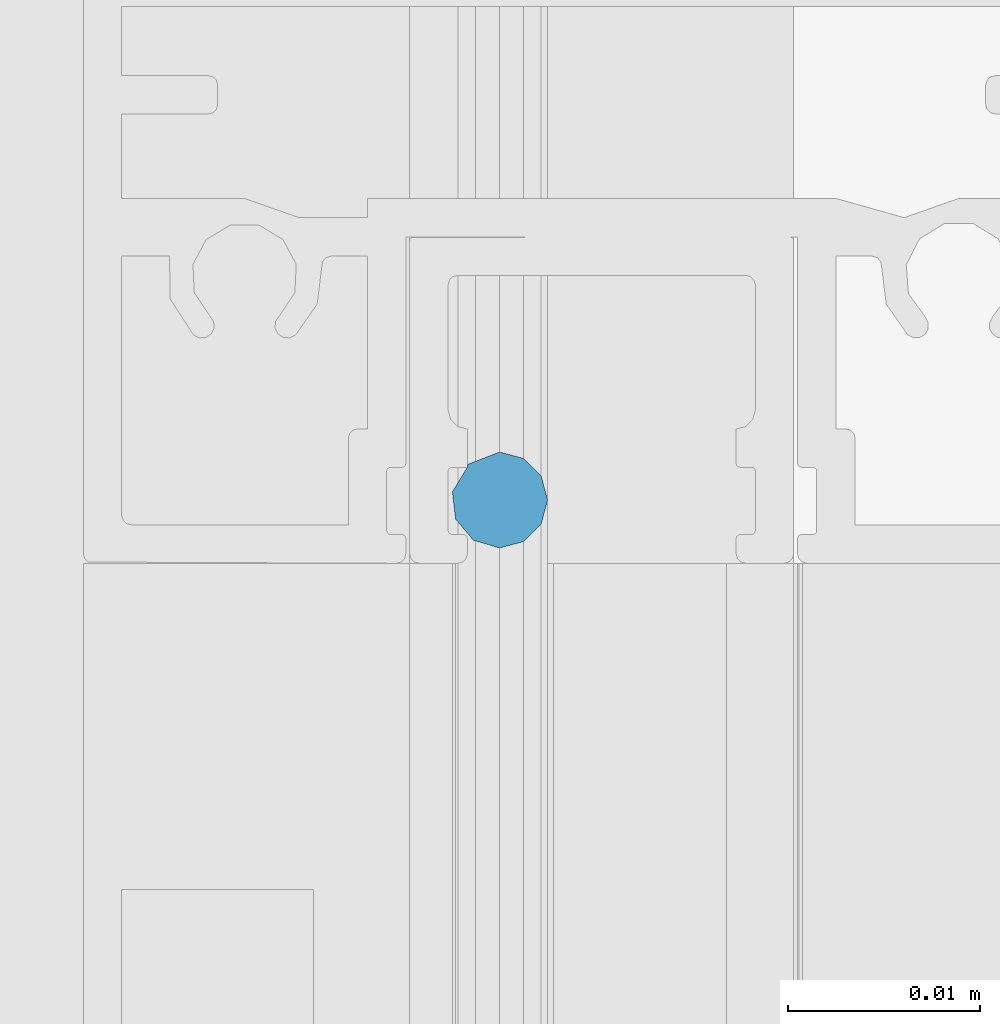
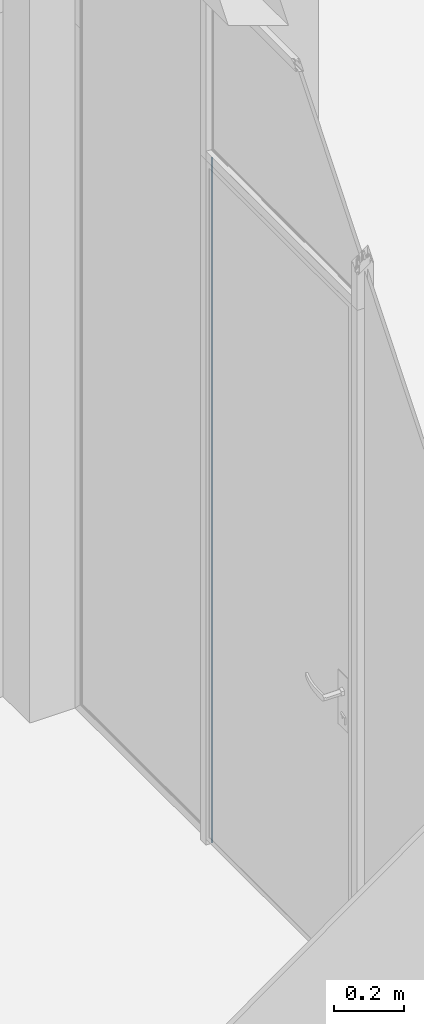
# One storey, part 88 of 387: 1 building element part, 2 elements without a shape of their own.
"""IFC2X3 building model written with IfcOpenShell, lengths in millimetres."""

from ifc_helpers import new_model, entity, si_unit, converted_unit, derived_unit, money_unit, direction, frame, origin_with_axes, place, context, subcontext, project, spatial, faceted_brep, source, transform, mapped, material, type_object, element, aggregate, save


model = new_model("IFC2X3")

# Units and contexts
model_context = context("Model", 3, precision=0.01, world=origin_with_axes(), true_north=direction((0.0, 1.0)))
body_context = subcontext(model_context, "Body", "Model", "MODEL_VIEW")
ifc_project = project(units=[si_unit("LENGTHUNIT", "METRE", prefix="MILLI"), si_unit("AREAUNIT", "SQUARE_METRE"), si_unit("VOLUMEUNIT", "CUBIC_METRE"), converted_unit("PLANEANGLEUNIT", "DEGREE", entity("IfcPlaneAngleMeasure", 0.0174532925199), si_unit("PLANEANGLEUNIT", "RADIAN"), dimensions=[0, 0, 0, 0, 0, 0, 0]), si_unit("SOLIDANGLEUNIT", "STERADIAN"), money_unit("EUR"), converted_unit("TIMEUNIT", "Year", entity("IfcTimeMeasure", 31556926.0), si_unit("TIMEUNIT", "SECOND"), dimensions=[0, 0, 1, 0, 0, 0, 0]), si_unit("MASSUNIT", "GRAM", prefix="KILO"), si_unit("THERMODYNAMICTEMPERATUREUNIT", "DEGREE_CELSIUS"), si_unit("LUMINOUSINTENSITYUNIT", "LUMEN"), si_unit("ENERGYUNIT", "JOULE", prefix="MEGA"), derived_unit("THERMALCONDUCTANCEUNIT", [(si_unit("POWERUNIT", "WATT"), 1), (si_unit("LENGTHUNIT", "METRE"), -1), (si_unit("THERMODYNAMICTEMPERATUREUNIT", "KELVIN"), -1)]), derived_unit("SPECIFICHEATCAPACITYUNIT", [(si_unit("ENERGYUNIT", "JOULE"), 1), (si_unit("MASSUNIT", "GRAM", prefix="KILO"), -1), (si_unit("THERMODYNAMICTEMPERATUREUNIT", "KELVIN"), -1)]), derived_unit("MASSDENSITYUNIT", [(si_unit("MASSUNIT", "GRAM", prefix="KILO"), 1), (si_unit("VOLUMEUNIT", "CUBIC_METRE"), -1)])], contexts=[model_context])

# Site, building, storey
site_placement = place(None, origin_with_axes())
site = spatial("IfcSite", under=ifc_project, at=site_placement, Name="Puškini 31, Narva", CompositionType="ELEMENT")
building_placement = place(site_placement, origin_with_axes())
building = spatial("IfcBuilding", under=site, at=building_placement, Name="Narva Riigigümnaasium", CompositionType="ELEMENT")
storey_placement = place(building_placement, frame((0.0, 0.0, 2640.0), z_axis=(0.0, 0.0, 1.0), x_axis=(1.0, 0.0, 0.0)))
storey = spatial("IfcBuildingStorey", under=building, at=storey_placement, Name="2.korrus +2.64", CompositionType="ELEMENT", Elevation=2640.0)

# Curtain wall, member, building element part
curtain_wall_type = type_object("IfcCurtainWallType", Name="Curtain Wall Type", PredefinedType="NOTDEFINED")
curtain_wall_placement = place(storey_placement, frame((28390.0000001, 180299.973357, -0.00013048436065), z_axis=(0.0, 0.0, 1.0), x_axis=(1.0, 0.0, 0.0)))
curtain_wall = element("IfcCurtainWall", 1, at=curtain_wall_placement, inside=storey, type_object=curtain_wall_type, Name="G-SKLF-17")
member_type = type_object("IfcMemberType", Name="32 x 17", PredefinedType="MULLION")
member_placement = place(curtain_wall_placement, frame((0.0, 450.0, 0.0), z_axis=(0.0, 0.0, 1.0), x_axis=(0.0, 1.0, 0.0)))
member = element("IfcMember", 2, at=member_placement, type_object=member_type, Name="G-SKLF-43-raam", ObjectType="MULLION")
aggregate(curtain_wall, [member])
ifc_material = material(Name="Soojustus - Mineraal Kõva")
shared_shape = source(origin_with_axes(), body_context, "Body", "Brep", [
    faceted_brep([(-27.0, 6.99999999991, 0.0), (-28.2816361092, 7.77906931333, 0.0), (-28.2816361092, 7.77906931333, 2400.00000922), (-27.0, 6.99999999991, 2400.00000922), (-26.8568724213, 7.00000000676, 0.0), (-26.2036516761, 5.31494614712, 0.0), (-26.5385881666, 4.06494614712, 0.0), (-27.4536516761, 3.14988263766, 0.0), (-28.7036516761, 2.81494614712, 0.0), (-29.9536516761, 3.14988263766, 0.0), (-30.8687151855, 4.06494614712, 0.0), (-31.2036516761, 5.31494614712, 0.0), (-30.7946188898, 6.68529506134, 0.0), (-29.7013667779, 7.60722986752, 0.0), (-29.7013667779, 7.60722986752, 2400.00000922), (-30.7946188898, 6.68529506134, 2400.00000922), (-31.2036516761, 5.31494614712, 2400.00000922), (-30.8687151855, 4.06494614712, 2400.00000922), (-29.9536516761, 3.14988263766, 2400.00000922), (-28.7036516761, 2.81494614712, 2400.00000922), (-27.4536516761, 3.14988263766, 2400.00000922), (-26.5385881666, 4.06494614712, 2400.00000922), (-26.2036516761, 5.31494614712, 2400.00000922), (-26.8568724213, 7.00000000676, 2400.00000922)], [[[0, 1, 2, 3]], [[0, 4, 5, 6, 7, 8, 9, 10, 11, 12, 13, 1]], [[1, 13, 14, 2]], [[3, 2, 14, 15, 16, 17, 18, 19, 20, 21, 22, 23]], [[4, 0, 3, 23]], [[5, 4, 23, 22]], [[6, 5, 22, 21]], [[7, 6, 21, 20]], [[8, 7, 20, 19]], [[9, 8, 19, 18]], [[10, 9, 18, 17]], [[11, 10, 17, 16]], [[12, 11, 16, 15]], [[13, 12, 15, 14]]]),
])
building_element_part_placement = place(member_placement, origin_with_axes())
building_element_part = element("IfcBuildingElementPart", 3, at=building_element_part_placement, material=ifc_material, Name="Soojustus - Mineraal Kõva", context=body_context, shape_type="MappedRepresentation", body=[
    mapped(shared_shape, transform((0.0, 0.0, 0.0))),
])
aggregate(member, [building_element_part])

save(model, "model.ifc")
